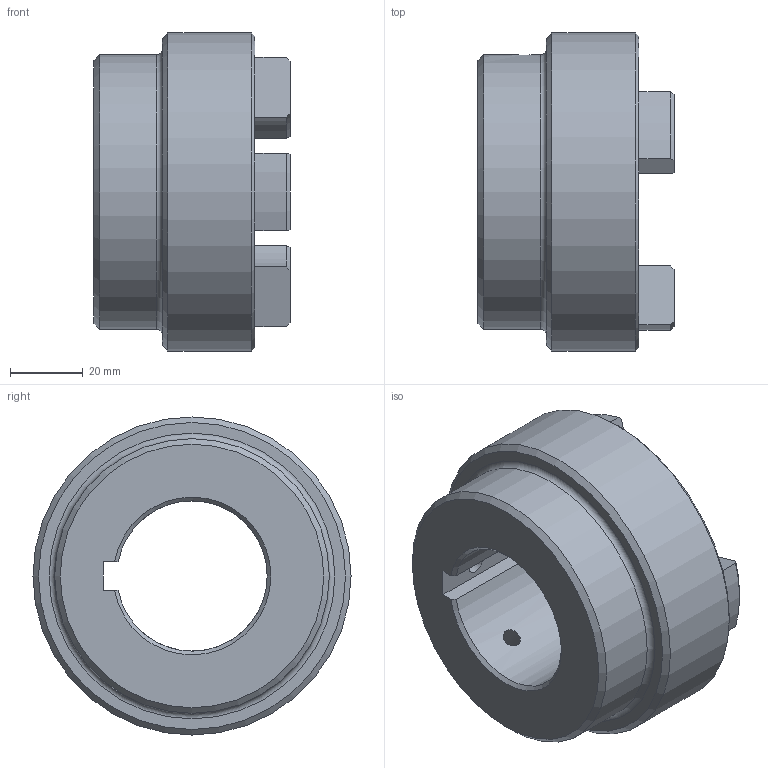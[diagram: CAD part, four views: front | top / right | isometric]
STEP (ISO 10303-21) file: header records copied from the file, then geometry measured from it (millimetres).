
FILE_DESCRIPTION (( 'STEP AP203' ), '1' );
FILE_NAME ('RC3.step', '2024-07-24T12:53:41', ( 'Adlan' ), ( '' ), 'SwSTEP 2.0', 'SolidWorks 2013', '' );
FILE_SCHEMA (( 'CONFIG_CONTROL_DESIGN' ));
Length unit declared in the file: inch
Products named in the file (1): RC3
Bounding box: 53.85 x 87.38 x 87.38 mm (x, y, z)
Volume: 150617.2 mm3; surface area: 30270 mm2
Topology: 1 solids, 1 shells, 69 faces, 177 edges, 111 vertices
Faces by surface type: cylinder 26, plane 18, torus 13, cone 12
Full cylindrical faces by diameter (mm): 5.105 x2, 75.438 x1, 87.376 x1
Entity records: 2341 total; most frequent: CARTESIAN_POINT 603, DIRECTION 364, ORIENTED_EDGE 328, EDGE_CURVE 164, AXIS2_PLACEMENT_3D 147, VERTEX_POINT 108, EDGE_LOOP 86, CIRCLE 77
